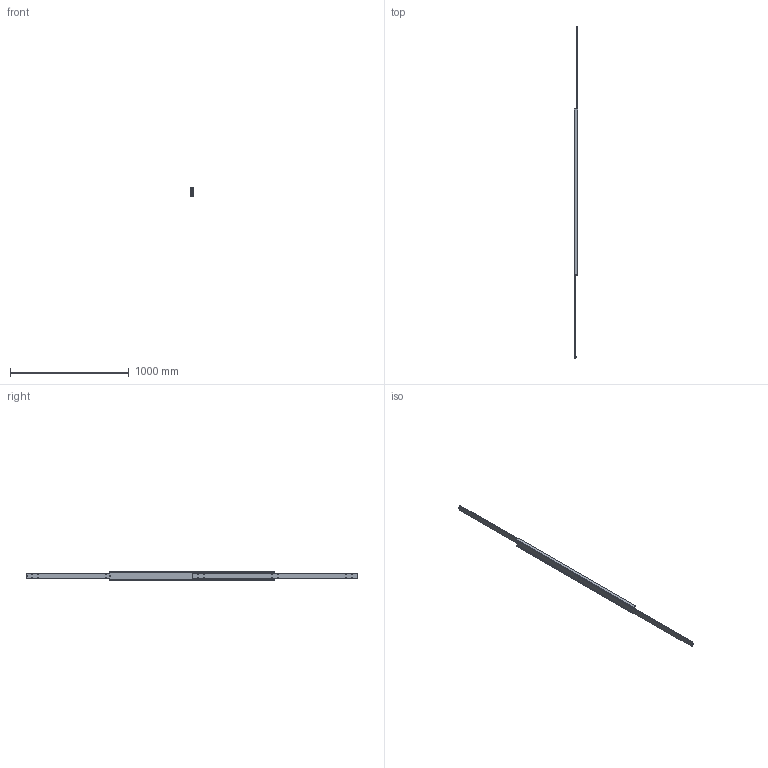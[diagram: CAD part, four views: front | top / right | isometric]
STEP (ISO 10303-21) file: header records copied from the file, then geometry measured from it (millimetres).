
FILE_DESCRIPTION(/* description */ (''),/* implementation_level */ '2;1');
FILE_NAME(/* name */ 'C:\Users\Miluxor\Desktop\Miluxor Schienen\Original Zeichnungen\Zeichnungen Schienen Komplett\MX-DTP70\MX-DTP70.140\MX-DTP70.140_ausgefahren.stp',/* time_stamp */ '2020-08-13T17:13:32+02:00',/* author */ ('Miluxor'),/* organization */ (''),/* preprocessor_version */ 'ST-DEVELOPER v16.13',/* originating_system */ 'AutoCAD Mechanical',/* authorisation */ '');
FILE_SCHEMA (('AUTOMOTIVE_DESIGN { 1 0 10303 214 3 1 1 }'));
Length unit declared in the file: millimetre
Products named in the file (1): Product
Bounding box: 32 x 2800 x 70 mm (x, y, z)
Volume: 2388570.6 mm3; surface area: 803844.6 mm2
Topology: 63 solids, 65 shells, 200 faces, 646 edges, 464 vertices
Faces by surface type: plane 86, sphere 56, cylinder 40, torus 10, bspline 8
Full cylindrical faces by diameter (mm): 6 x2, 8 x24, 13 x2
Entity records: 13133 total; most frequent: CARTESIAN_POINT 7613, DIRECTION 1126, ORIENTED_EDGE 844, EDGE_CURVE 494, VERTEX_POINT 462, AXIS2_PLACEMENT_3D 457, EDGE_LOOP 402, CIRCLE 260
